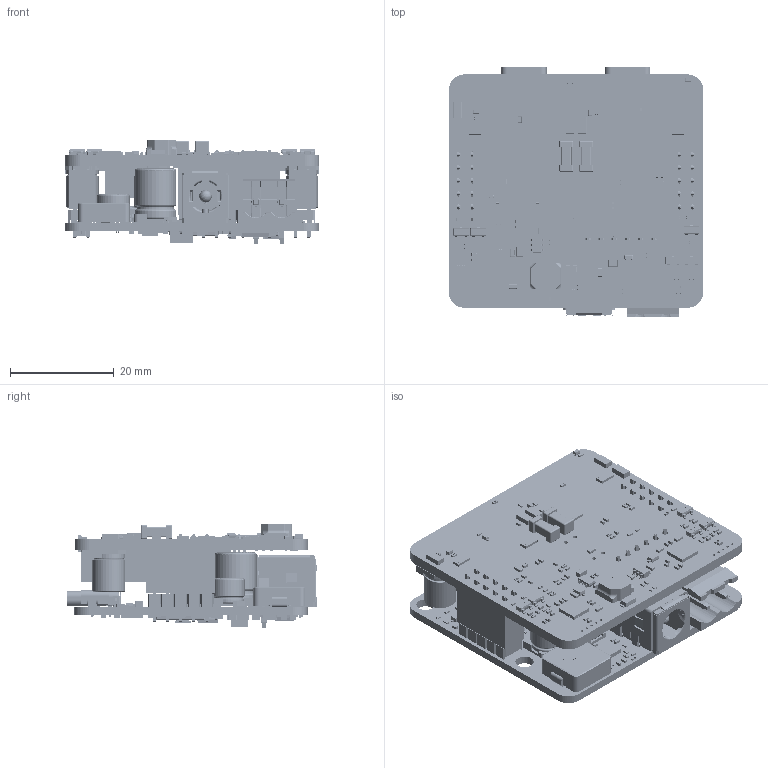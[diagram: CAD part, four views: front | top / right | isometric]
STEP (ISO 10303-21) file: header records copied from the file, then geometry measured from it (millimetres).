
FILE_DESCRIPTION(/* description */ (''),/* implementation_level */ '2;1');
FILE_NAME(/* name */ 'WTF-GLX1CX1C_PD_V01-DEV_Model3D_JWV1.step',/* time_stamp */ '2023-11-01T10:56:47-04:00',/* author */ (''),/* organization */ (''),/* preprocessor_version */ 'ST-DEVELOPER v20',/* originating_system */ 'Autodesk Translation Framework v12.14.0.127',/* authorisation */ '');
FILE_SCHEMA (('AUTOMOTIVE_DESIGN { 1 0 10303 214 3 1 1 }'));
Products named in the file (577): (Unsaved); NONE (2); NONE (1); Board; R7; EAFB6961-684A-4697-95F0-342E0193C13A (2); C17; C9; R18; R16; R12; EAFB6961-684A-4697-95F0-342E0193C13A (3); FB2; Assem1; FB1; Assem1 (1); Lötende; C50; User Library-CAPC1608X___; C49; User Library-CAPC1608X___ (1); R28; EAFB6961-684A-4697-95F0-342E0193C13A (4); R23; EAFB6961-684A-4697-95F0-342E0193C13A (5); C53; 0402 cap (1); C25; 0402 cap (2); C37; 0402 cap (3); C26; 0402 cap (4); C40; C21; C28; C32; C33; 0402 cap (7); R15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
Assembly tree (717 placements, depth 6):
  (Unsaved)
    NONE (2)
      NONE (1)
        Board
        R7
          EAFB6961-684A-4697-95F0-342E0193C13A (2)
        C17
          User Library-cap_0805_lowprofile
        C9
          0402 cap
        R18
        R16
          EAFB6961-684A-4697-95F0-342E0193C13A (1)
        R12
          EAFB6961-684A-4697-95F0-342E0193C13A (3)
        FB2
          Assem1
            Lötende  x2
        FB1
          Assem1 (1)
            Lötende  x2
        C50
          User Library-CAPC1608X___
        C49
          User Library-CAPC1608X___ (1)
        R28
          EAFB6961-684A-4697-95F0-342E0193C13A (4)
        R23
          EAFB6961-684A-4697-95F0-342E0193C13A (5)
        C53
          0402 cap (1)
        C25
          0402 cap (2)
        C37
          0402 cap (3)
        C26
          0402 cap (4)
        C40
          0402 cap (6)
        C21
          0402 cap (6)
        C28
          0402 cap (5)
        C32
          0402 cap (6)
        C33
          0402 cap (7)
        R15
          RESC1608X55N EIA 0603
        C45
          User Library-cap_0805_lowprofile (1)
        C44
          0402 cap (6)
        C30
          User Library-cap_0805_lowprofile (1)
        C29
          0402 cap (8)
        C71
          0402 cap (9)
        R14
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Bounding box: 49.08 x 48.28 x 19.92 mm (x, y, z)
Volume: 16302.5 mm3; surface area: 27237.5 mm2
Topology: 802 solids, 837 shells, 39802 faces, 97934 edges, 58139 vertices
Faces by surface type: plane 22668, cylinder 9984, bspline 3365, sphere 3216, torus 397, cone 172
Full cylindrical faces by diameter (mm): 0.1 x3, 0.2 x5, 0.3 x1, 0.311 x4, 0.4 x2, 0.5 x12, 0.511 x10, 0.6 x33, 0.661 x2, 0.787 x1, 0.811 x4, 0.9 x2, 0.913 x1, 1 x27, 1.111 x52, 1.16 x1, 1.2 x4, 1.35 x1, 1.411 x1, 1.511 x2, 1.544 x1, 1.611 x1, 1.669 x1, 1.96 x1, 2 x1, 2.032 x12, 2.12 x1, 2.4 x1, 2.8 x2, 2.85 x2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
Entity records: 961762 total; most frequent: CARTESIAN_POINT 340261, ORIENTED_EDGE 124125, DIRECTION 119545, EDGE_CURVE 62075, LINE 44429, VECTOR 44429, VERTEX_POINT 38041, AXIS2_PLACEMENT_3D 37558
